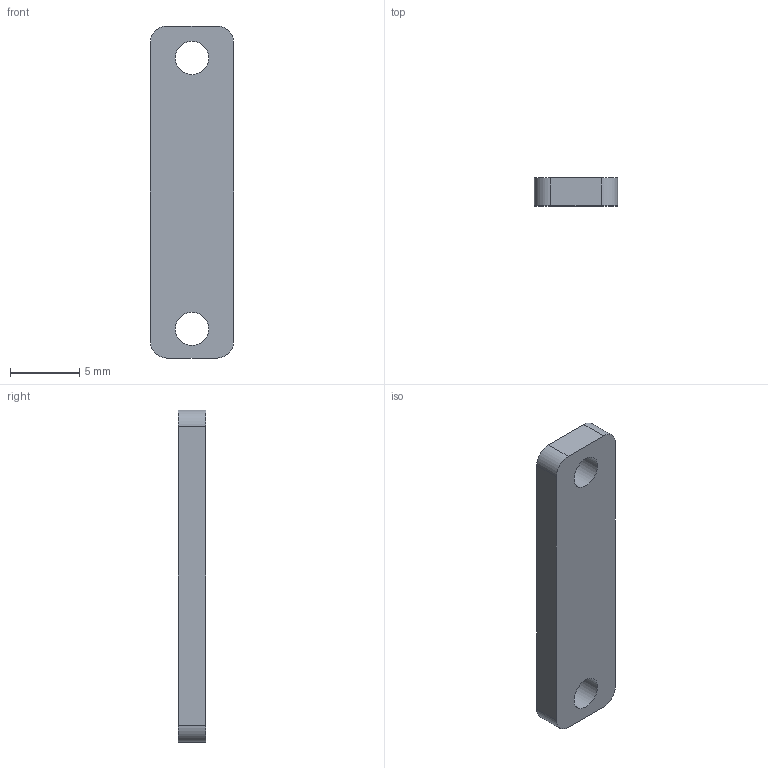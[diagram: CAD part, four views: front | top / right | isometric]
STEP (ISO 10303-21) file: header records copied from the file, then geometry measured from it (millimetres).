
FILE_DESCRIPTION(('Open CASCADE Model'),'2;1');
FILE_NAME('mic_clamp_bracket_PA12','2026-09-08T13:43:18',('Author'),( 'Open CASCADE'),'Open CASCADE STEP processor 7.8','build123d', 'Unknown');
FILE_SCHEMA(('AUTOMOTIVE_DESIGN { 1 0 10303 214 1 1 1 1 }'));
Length unit declared in the file: millimetre
Products named in the file (2): =>[0:1:1:2]; mic_clamp_bracket_PA12
Assembly tree (1 placements, depth 2):
  =>[0:1:1:2]
    mic_clamp_bracket_PA12
Bounding box: 6 x 2 x 23.9 mm (x, y, z)
Volume: 266.2 mm3; surface area: 411.9 mm2
Topology: 1 solids, 1 shells, 12 faces, 30 edges, 20 vertices
Faces by surface type: plane 6, cylinder 6
Full cylindrical faces by diameter (mm): 2.4 x2
Entity records: 816 total; most frequent: CARTESIAN_POINT 172, DIRECTION 122, LINE 66, VECTOR 66, ORIENTED_EDGE 60, PCURVE 60, DEFINITIONAL_REPRESENTATION 60, EDGE_CURVE 30
